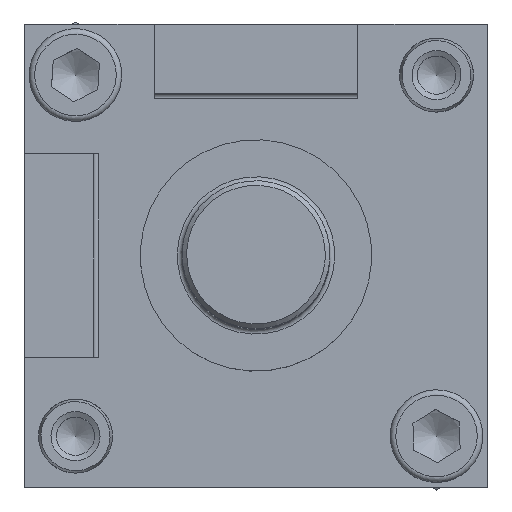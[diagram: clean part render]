
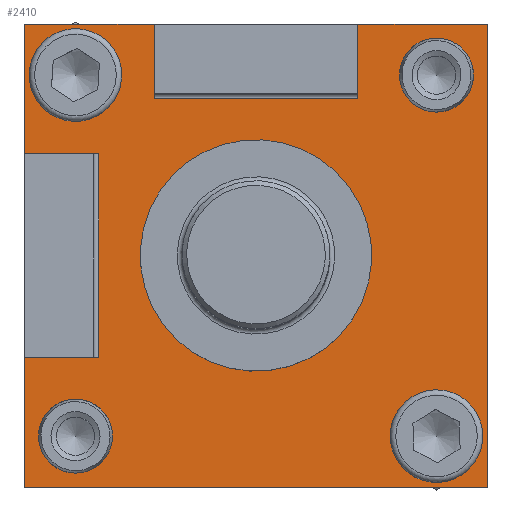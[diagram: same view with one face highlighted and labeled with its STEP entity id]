
A CAD part, top view. The second image highlights one B-rep face of the part: STEP entity #2410.
In plain terms, the highlighted planar face has unit normal (0, 0, 1).
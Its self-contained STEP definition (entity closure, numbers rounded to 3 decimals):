
#204=FACE_BOUND('',#498,.T.);
#205=FACE_BOUND('',#499,.T.);
#206=FACE_BOUND('',#500,.T.);
#207=FACE_BOUND('',#501,.T.);
#208=FACE_BOUND('',#502,.T.);
#247=PLANE('',#2833);
#332=FACE_OUTER_BOUND('',#497,.T.);
#497=EDGE_LOOP('',(#1875,#1876,#1877,#1878,#1879,#1880,#1881,#1882,#1883,
#1884,#1885,#1886));
#498=EDGE_LOOP('',(#1887,#1888));
#499=EDGE_LOOP('',(#1889,#1890));
#500=EDGE_LOOP('',(#1891,#1892));
#501=EDGE_LOOP('',(#1893,#1894));
#502=EDGE_LOOP('',(#1895,#1896));
#657=LINE('',#4116,#793);
#659=LINE('',#4122,#795);
#660=LINE('',#4124,#796);
#661=LINE('',#4126,#797);
#662=LINE('',#4128,#798);
#663=LINE('',#4130,#799);
#664=LINE('',#4132,#800);
#665=LINE('',#4134,#801);
#666=LINE('',#4136,#802);
#667=LINE('',#4138,#803);
#668=LINE('',#4140,#804);
#669=LINE('',#4141,#805);
#793=VECTOR('',#3335,10.);
#795=VECTOR('',#3341,10.);
#796=VECTOR('',#3342,10.);
#797=VECTOR('',#3343,10.);
#798=VECTOR('',#3344,10.);
#799=VECTOR('',#3345,10.);
#800=VECTOR('',#3346,10.);
#801=VECTOR('',#3347,10.);
#802=VECTOR('',#3348,10.);
#803=VECTOR('',#3349,10.);
#804=VECTOR('',#3350,10.);
#805=VECTOR('',#3351,10.);
#954=CIRCLE('',#2834,12.25);
#955=CIRCLE('',#2835,12.25);
#956=CIRCLE('',#2836,3.25);
#957=CIRCLE('',#2837,3.25);
#958=CIRCLE('',#2838,3.25);
#959=CIRCLE('',#2839,3.25);
#960=CIRCLE('',#2840,4.);
#961=CIRCLE('',#2841,4.);
#962=CIRCLE('',#2842,4.);
#963=CIRCLE('',#2843,4.);
#1144=VERTEX_POINT('',#4113);
#1145=VERTEX_POINT('',#4115);
#1147=VERTEX_POINT('',#4121);
#1148=VERTEX_POINT('',#4123);
#1149=VERTEX_POINT('',#4125);
#1150=VERTEX_POINT('',#4127);
#1151=VERTEX_POINT('',#4129);
#1152=VERTEX_POINT('',#4131);
#1153=VERTEX_POINT('',#4133);
#1154=VERTEX_POINT('',#4135);
#1155=VERTEX_POINT('',#4137);
#1156=VERTEX_POINT('',#4139);
#1157=VERTEX_POINT('',#4142);
#1158=VERTEX_POINT('',#4143);
#1159=VERTEX_POINT('',#4146);
#1160=VERTEX_POINT('',#4147);
#1161=VERTEX_POINT('',#4150);
#1162=VERTEX_POINT('',#4151);
#1163=VERTEX_POINT('',#4154);
#1164=VERTEX_POINT('',#4155);
#1165=VERTEX_POINT('',#4158);
#1166=VERTEX_POINT('',#4159);
#1415=EDGE_CURVE('',#1144,#1145,#657,.T.);
#1418=EDGE_CURVE('',#1147,#1145,#659,.T.);
#1419=EDGE_CURVE('',#1148,#1144,#660,.T.);
#1420=EDGE_CURVE('',#1149,#1148,#661,.T.);
#1421=EDGE_CURVE('',#1150,#1149,#662,.T.);
#1422=EDGE_CURVE('',#1151,#1150,#663,.T.);
#1423=EDGE_CURVE('',#1152,#1151,#664,.T.);
#1424=EDGE_CURVE('',#1152,#1153,#665,.T.);
#1425=EDGE_CURVE('',#1154,#1153,#666,.T.);
#1426=EDGE_CURVE('',#1155,#1154,#667,.T.);
#1427=EDGE_CURVE('',#1156,#1155,#668,.T.);
#1428=EDGE_CURVE('',#1147,#1156,#669,.T.);
#1429=EDGE_CURVE('',#1157,#1158,#954,.T.);
#1430=EDGE_CURVE('',#1158,#1157,#955,.T.);
#1431=EDGE_CURVE('',#1159,#1160,#956,.T.);
#1432=EDGE_CURVE('',#1160,#1159,#957,.T.);
#1433=EDGE_CURVE('',#1161,#1162,#958,.T.);
#1434=EDGE_CURVE('',#1162,#1161,#959,.T.);
#1435=EDGE_CURVE('',#1163,#1164,#960,.T.);
#1436=EDGE_CURVE('',#1164,#1163,#961,.T.);
#1437=EDGE_CURVE('',#1165,#1166,#962,.T.);
#1438=EDGE_CURVE('',#1166,#1165,#963,.T.);
#1875=ORIENTED_EDGE('',*,*,#1418,.T.);
#1876=ORIENTED_EDGE('',*,*,#1415,.F.);
#1877=ORIENTED_EDGE('',*,*,#1419,.F.);
#1878=ORIENTED_EDGE('',*,*,#1420,.F.);
#1879=ORIENTED_EDGE('',*,*,#1421,.F.);
#1880=ORIENTED_EDGE('',*,*,#1422,.F.);
#1881=ORIENTED_EDGE('',*,*,#1423,.F.);
#1882=ORIENTED_EDGE('',*,*,#1424,.T.);
#1883=ORIENTED_EDGE('',*,*,#1425,.F.);
#1884=ORIENTED_EDGE('',*,*,#1426,.F.);
#1885=ORIENTED_EDGE('',*,*,#1427,.F.);
#1886=ORIENTED_EDGE('',*,*,#1428,.F.);
#1887=ORIENTED_EDGE('',*,*,#1429,.F.);
#1888=ORIENTED_EDGE('',*,*,#1430,.F.);
#1889=ORIENTED_EDGE('',*,*,#1431,.F.);
#1890=ORIENTED_EDGE('',*,*,#1432,.F.);
#1891=ORIENTED_EDGE('',*,*,#1433,.F.);
#1892=ORIENTED_EDGE('',*,*,#1434,.F.);
#1893=ORIENTED_EDGE('',*,*,#1435,.F.);
#1894=ORIENTED_EDGE('',*,*,#1436,.F.);
#1895=ORIENTED_EDGE('',*,*,#1437,.F.);
#1896=ORIENTED_EDGE('',*,*,#1438,.F.);
#2410=ADVANCED_FACE('',(#332,#204,#205,#206,#207,#208),#247,.T.);
#2833=AXIS2_PLACEMENT_3D('',#4120,#3339,#3340);
#2834=AXIS2_PLACEMENT_3D('',#4144,#3352,#3353);
#2835=AXIS2_PLACEMENT_3D('',#4145,#3354,#3355);
#2836=AXIS2_PLACEMENT_3D('',#4148,#3356,#3357);
#2837=AXIS2_PLACEMENT_3D('',#4149,#3358,#3359);
#2838=AXIS2_PLACEMENT_3D('',#4152,#3360,#3361);
#2839=AXIS2_PLACEMENT_3D('',#4153,#3362,#3363);
#2840=AXIS2_PLACEMENT_3D('',#4156,#3364,#3365);
#2841=AXIS2_PLACEMENT_3D('',#4157,#3366,#3367);
#2842=AXIS2_PLACEMENT_3D('',#4160,#3368,#3369);
#2843=AXIS2_PLACEMENT_3D('',#4161,#3370,#3371);
#3335=DIRECTION('',(-1.,0.,0.));
#3339=DIRECTION('center_axis',(0.,0.,
1.));
#3340=DIRECTION('ref_axis',(1.,0.,0.));
#3341=DIRECTION('',(0.,1.,0.));
#3342=DIRECTION('',(0.,1.,0.));
#3343=DIRECTION('',(-1.,0.,0.));
#3344=DIRECTION('',(0.,-1.,0.));
#3345=DIRECTION('',(1.,0.,0.));
#3346=DIRECTION('',(0.,1.,0.));
#3347=DIRECTION('',(1.,0.,0.));
#3348=DIRECTION('',(0.,1.,0.));
#3349=DIRECTION('',(1.,0.,0.));
#3350=DIRECTION('',(0.,1.,0.));
#3351=DIRECTION('',(-1.,0.,0.));
#3352=DIRECTION('center_axis',(0.,0.,
1.));
#3353=DIRECTION('ref_axis',(1.,0.,0.));
#3354=DIRECTION('center_axis',(0.,0.,
1.));
#3355=DIRECTION('ref_axis',(1.,0.,0.));
#3356=DIRECTION('center_axis',(0.,0.,
1.));
#3357=DIRECTION('ref_axis',(1.,0.,0.));
#3358=DIRECTION('center_axis',(0.,0.,
1.));
#3359=DIRECTION('ref_axis',(1.,0.,0.));
#3360=DIRECTION('center_axis',(0.,0.,
1.));
#3361=DIRECTION('ref_axis',(1.,0.,0.));
#3362=DIRECTION('center_axis',(0.,0.,
1.));
#3363=DIRECTION('ref_axis',(1.,0.,0.));
#3364=DIRECTION('center_axis',(0.,0.,
1.));
#3365=DIRECTION('ref_axis',(1.,0.,0.));
#3366=DIRECTION('center_axis',(0.,0.,
1.));
#3367=DIRECTION('ref_axis',(1.,0.,0.));
#3368=DIRECTION('center_axis',(0.,0.,
1.));
#3369=DIRECTION('ref_axis',(1.,0.,0.));
#3370=DIRECTION('center_axis',(0.,0.,
1.));
#3371=DIRECTION('ref_axis',(1.,0.,0.));
#4113=CARTESIAN_POINT('',(11.,-17.,6.));
#4115=CARTESIAN_POINT('',(-11.,-17.,6.));
#4116=CARTESIAN_POINT('',(5.5,-17.,6.));
#4120=CARTESIAN_POINT('Origin',(0.,0.,
6.));
#4121=CARTESIAN_POINT('',(-11.,-25.,6.));
#4122=CARTESIAN_POINT('',(-11.,-8.75,6.));
#4123=CARTESIAN_POINT('',(11.,-25.,6.));
#4124=CARTESIAN_POINT('',(11.,-12.5,6.));
#4125=CARTESIAN_POINT('',(25.,-25.,6.));
#4126=CARTESIAN_POINT('',(12.5,-25.,6.));
#4127=CARTESIAN_POINT('',(25.,25.,6.));
#4128=CARTESIAN_POINT('',(25.,12.5,6.));
#4129=CARTESIAN_POINT('',(-25.,25.,6.));
#4130=CARTESIAN_POINT('',(-12.5,25.,6.));
#4131=CARTESIAN_POINT('',(-25.,11.,6.));
#4132=CARTESIAN_POINT('',(-25.,-12.5,6.));
#4133=CARTESIAN_POINT('',(-17.,11.,6.));
#4134=CARTESIAN_POINT('',(-8.75,11.,6.));
#4135=CARTESIAN_POINT('',(-17.,-11.,6.));
#4136=CARTESIAN_POINT('',(-17.,-5.5,6.));
#4137=CARTESIAN_POINT('',(-25.,-11.,6.));
#4138=CARTESIAN_POINT('',(-12.5,-11.,6.));
#4139=CARTESIAN_POINT('',(-25.,-25.,6.));
#4140=CARTESIAN_POINT('',(-25.,-12.5,6.));
#4141=CARTESIAN_POINT('',(12.5,-25.,6.));
#4142=CARTESIAN_POINT('',(12.25,0.,6.));
#4143=CARTESIAN_POINT('',(-12.25,0.,6.));
#4144=CARTESIAN_POINT('Origin',(0.,0.,6.));
#4145=CARTESIAN_POINT('Origin',(0.,0.,6.));
#4146=CARTESIAN_POINT('',(-16.25,-19.5,6.));
#4147=CARTESIAN_POINT('',(-22.75,-19.5,6.));
#4148=CARTESIAN_POINT('Origin',(-19.5,-19.5,6.));
#4149=CARTESIAN_POINT('Origin',(-19.5,-19.5,6.));
#4150=CARTESIAN_POINT('',(22.75,19.5,6.));
#4151=CARTESIAN_POINT('',(16.25,19.5,6.));
#4152=CARTESIAN_POINT('Origin',(19.5,19.5,6.));
#4153=CARTESIAN_POINT('Origin',(19.5,19.5,6.));
#4154=CARTESIAN_POINT('',(-15.5,19.5,6.));
#4155=CARTESIAN_POINT('',(-23.5,19.5,6.));
#4156=CARTESIAN_POINT('Origin',(-19.5,19.5,6.));
#4157=CARTESIAN_POINT('Origin',(-19.5,19.5,6.));
#4158=CARTESIAN_POINT('',(23.5,-19.5,6.));
#4159=CARTESIAN_POINT('',(15.5,-19.5,6.));
#4160=CARTESIAN_POINT('Origin',(19.5,-19.5,6.));
#4161=CARTESIAN_POINT('Origin',(19.5,-19.5,6.));
